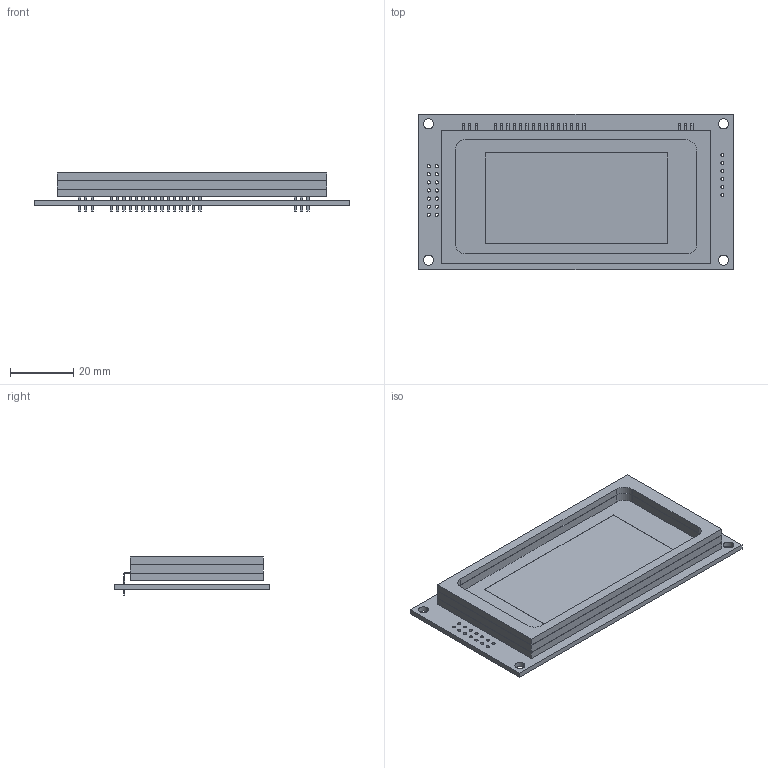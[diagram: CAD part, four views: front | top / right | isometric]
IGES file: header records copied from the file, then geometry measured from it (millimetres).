
Start section:  PTC IGES file: gu128x64d-7000.igs
Global section: file name: gu128x64d-7000.igs; native system: Pro/ENGINEER by Parametric Technology Corporation; preprocessor: 2010280; author: samx; organization: Unknown; date: 20140522.113635; units: millimetre
Bounding box: 99 x 49 x 12 mm (x, y, z)
Volume: 20216.9 mm3; surface area: 23963.8 mm2
Topology: 2 solids, 2 shells, 447 faces, 1303 edges, 864 vertices
Faces by surface type: bspline 349, revolution 98
